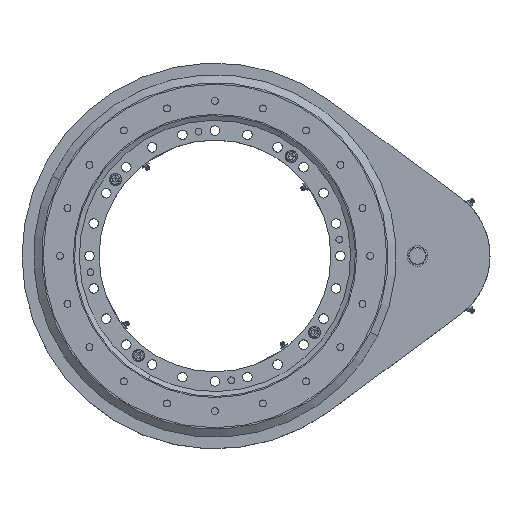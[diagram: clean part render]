
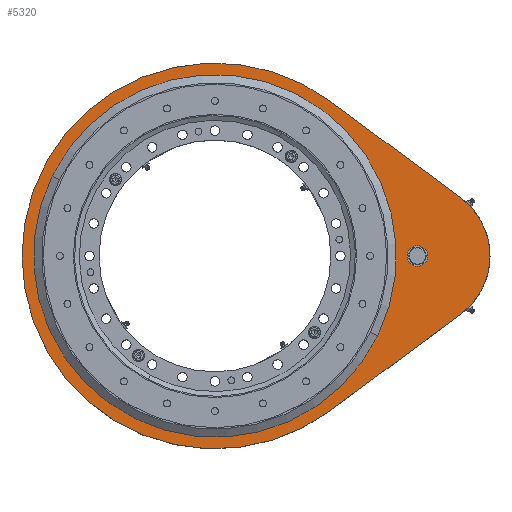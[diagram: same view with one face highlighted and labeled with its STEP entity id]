
A CAD part, top view. The second image highlights one B-rep face of the part: STEP entity #5320.
In plain terms, the highlighted planar face has unit normal (0, 0, 1).
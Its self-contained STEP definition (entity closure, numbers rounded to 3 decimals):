
#56 = DIRECTION ( 'NONE',  ( -1., 0., 0. ) ) ;
#366 = DIRECTION ( 'NONE',  ( 0., 0., 1. ) ) ;
#959 = CIRCLE ( 'NONE', #9255, 283. ) ;
#1164 = ORIENTED_EDGE ( 'NONE', *, *, #24145, .F. ) ;
#1346 = AXIS2_PLACEMENT_3D ( 'NONE', #11014, #8383, #10729 ) ;
#1583 = DIRECTION ( 'NONE',  ( -1., 0., 0. ) ) ;
#1683 = ORIENTED_EDGE ( 'NONE', *, *, #21531, .T. ) ;
#1776 = CIRCLE ( 'NONE', #20325, 261. ) ;
#1926 = CARTESIAN_POINT ( 'NONE',  ( 197.019, 23.74, 637. ) ) ;
#2001 = CARTESIAN_POINT ( 'NONE',  ( 233.019, 23.74, 637. ) ) ;
#3350 = VERTEX_POINT ( 'NONE', #12362 ) ;
#3931 = DIRECTION ( 'NONE',  ( 0., 0., 1. ) ) ;
#4456 = ORIENTED_EDGE ( 'NONE', *, *, #10448, .T. ) ;
#5320 = ADVANCED_FACE ( 'NONE', ( #26989, #9037, #9330 ), #9180, .T. ) ;
#5333 = CARTESIAN_POINT ( 'NONE',  ( 296.31, -61.914, 637. ) ) ;
#5550 = AXIS2_PLACEMENT_3D ( 'NONE', #13843, #366, #17808 ) ;
#6060 = VERTEX_POINT ( 'NONE', #9633 ) ;
#6875 = CARTESIAN_POINT ( 'NONE',  ( 220.019, 23.74, 637. ) ) ;
#8218 = CIRCLE ( 'NONE', #1346, 283. ) ;
#8383 = DIRECTION ( 'NONE',  ( 0., 0., 1. ) ) ;
#8388 = CARTESIAN_POINT ( 'NONE',  ( 104.2, -203.866, 637. ) ) ;
#8797 = VERTEX_POINT ( 'NONE', #13597 ) ;
#8927 = CARTESIAN_POINT ( 'NONE',  ( -63.981, 23.74, 637. ) ) ;
#9037 = FACE_OUTER_BOUND ( 'NONE', #9884, .T. ) ;
#9180 = PLANE ( 'NONE',  #5550 ) ;
#9255 = AXIS2_PLACEMENT_3D ( 'NONE', #8927, #28585, #17526 ) ;
#9330 = FACE_BOUND ( 'NONE', #20316, .T. ) ;
#9633 = CARTESIAN_POINT ( 'NONE',  ( 246.019, 23.74, 637. ) ) ;
#9663 = CARTESIAN_POINT ( 'NONE',  ( 104.2, 251.346, 637. ) ) ;
#9884 = EDGE_LOOP ( 'NONE', ( #13951, #22030, #4456, #22996, #10433 ) ) ;
#10433 = ORIENTED_EDGE ( 'NONE', *, *, #19270, .T. ) ;
#10448 = EDGE_CURVE ( 'NONE', #15982, #24647, #24026, .T. ) ;
#10729 = DIRECTION ( 'NONE',  ( 1., 0., 0. ) ) ;
#11014 = CARTESIAN_POINT ( 'NONE',  ( -63.981, 23.74, 637. ) ) ;
#12014 = CIRCLE ( 'NONE', #28293, 261. ) ;
#12128 = EDGE_CURVE ( 'NONE', #8797, #15982, #959, .T. ) ;
#12220 = ORIENTED_EDGE ( 'NONE', *, *, #17756, .T. ) ;
#12362 = CARTESIAN_POINT ( 'NONE',  ( 296.31, 109.394, 637. ) ) ;
#12852 = DIRECTION ( 'NONE',  ( 1., 0., 0. ) ) ;
#12926 = CARTESIAN_POINT ( 'NONE',  ( 104.2, 251.346, 637. ) ) ;
#13597 = CARTESIAN_POINT ( 'NONE',  ( -346.981, 23.74, 637. ) ) ;
#13843 = CARTESIAN_POINT ( 'NONE',  ( -63.981, 23.74, 637. ) ) ;
#13951 = ORIENTED_EDGE ( 'NONE', *, *, #28315, .T. ) ;
#14179 = DIRECTION ( 'NONE',  ( -0.804, 0.594, 0. ) ) ;
#15470 = CARTESIAN_POINT ( 'NONE',  ( 233.019, 23.74, 637. ) ) ;
#15480 = CARTESIAN_POINT ( 'NONE',  ( 104.2, -203.866, 637. ) ) ;
#15818 = CIRCLE ( 'NONE', #19520, 13. ) ;
#15982 = VERTEX_POINT ( 'NONE', #8388 ) ;
#17348 = VERTEX_POINT ( 'NONE', #28215 ) ;
#17398 = DIRECTION ( 'NONE',  ( 0., 0., 1. ) ) ;
#17526 = DIRECTION ( 'NONE',  ( 1., 0., 0. ) ) ;
#17756 = EDGE_CURVE ( 'NONE', #6060, #20594, #15818, .T. ) ;
#17787 = DIRECTION ( 'NONE',  ( 0.804, 0.594, 0. ) ) ;
#17808 = DIRECTION ( 'NONE',  ( 1., 0., 0. ) ) ;
#17914 = EDGE_LOOP ( 'NONE', ( #1683, #12220 ) ) ;
#18485 = AXIS2_PLACEMENT_3D ( 'NONE', #18931, #3931, #19072 ) ;
#18853 = LINE ( 'NONE', #9663, #27591 ) ;
#18931 = CARTESIAN_POINT ( 'NONE',  ( 233.019, 23.74, 637. ) ) ;
#19072 = DIRECTION ( 'NONE',  ( 1., 0., 0. ) ) ;
#19270 = EDGE_CURVE ( 'NONE', #3350, #22444, #18853, .T. ) ;
#19520 = AXIS2_PLACEMENT_3D ( 'NONE', #15470, #19969, #56 ) ;
#19969 = DIRECTION ( 'NONE',  ( 0., 0., -1. ) ) ;
#20316 = EDGE_LOOP ( 'NONE', ( #23181, #1164 ) ) ;
#20325 = AXIS2_PLACEMENT_3D ( 'NONE', #20843, #20990, #23168 ) ;
#20594 = VERTEX_POINT ( 'NONE', #6875 ) ;
#20843 = CARTESIAN_POINT ( 'NONE',  ( -63.981, 23.74, 637. ) ) ;
#20990 = DIRECTION ( 'NONE',  ( 0., 0., 1. ) ) ;
#20992 = VERTEX_POINT ( 'NONE', #1926 ) ;
#21531 = EDGE_CURVE ( 'NONE', #20594, #6060, #25768, .T. ) ;
#22030 = ORIENTED_EDGE ( 'NONE', *, *, #12128, .T. ) ;
#22444 = VERTEX_POINT ( 'NONE', #12926 ) ;
#22996 = ORIENTED_EDGE ( 'NONE', *, *, #23430, .T. ) ;
#23168 = DIRECTION ( 'NONE',  ( 1., 0., 0. ) ) ;
#23181 = ORIENTED_EDGE ( 'NONE', *, *, #24814, .F. ) ;
#23430 = EDGE_CURVE ( 'NONE', #24647, #3350, #25900, .T. ) ;
#24026 = LINE ( 'NONE', #15480, #26247 ) ;
#24145 = EDGE_CURVE ( 'NONE', #17348, #20992, #1776, .T. ) ;
#24647 = VERTEX_POINT ( 'NONE', #5333 ) ;
#24814 = EDGE_CURVE ( 'NONE', #20992, #17348, #12014, .T. ) ;
#25768 = CIRCLE ( 'NONE', #27183, 13. ) ;
#25900 = CIRCLE ( 'NONE', #18485, 106.5 ) ;
#26247 = VECTOR ( 'NONE', #17787, 1000. ) ;
#26989 = FACE_BOUND ( 'NONE', #17914, .T. ) ;
#27183 = AXIS2_PLACEMENT_3D ( 'NONE', #2001, #28744, #1583 ) ;
#27591 = VECTOR ( 'NONE', #14179, 1000. ) ;
#28215 = CARTESIAN_POINT ( 'NONE',  ( -324.981, 23.74, 637. ) ) ;
#28293 = AXIS2_PLACEMENT_3D ( 'NONE', #28745, #17398, #12852 ) ;
#28315 = EDGE_CURVE ( 'NONE', #22444, #8797, #8218, .T. ) ;
#28585 = DIRECTION ( 'NONE',  ( 0., 0., 1. ) ) ;
#28744 = DIRECTION ( 'NONE',  ( 0., 0., -1. ) ) ;
#28745 = CARTESIAN_POINT ( 'NONE',  ( -63.981, 23.74, 637. ) ) ;
